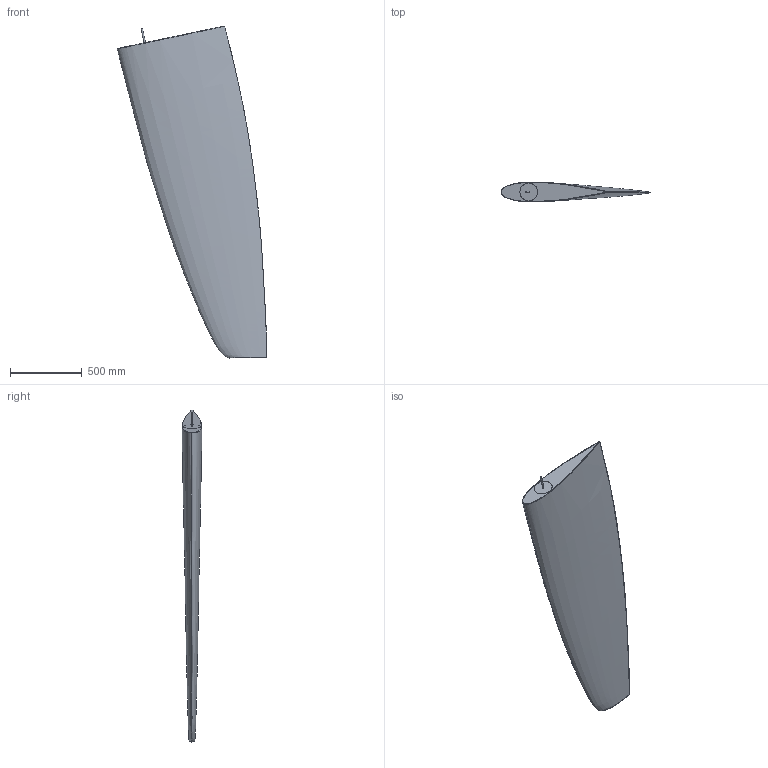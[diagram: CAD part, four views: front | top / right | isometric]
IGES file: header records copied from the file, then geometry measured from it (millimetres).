
Start section: SolidWorks IGES file using analytic representation for surfaces
Global section: file name: J:\SolidWorks\Rudder\RUD00\Rudderblade RUD55 for 50 to 60ft.IGS; native system: SolidWorks 2010; preprocessor: SolidWorks 2010; author: Klaus Jeppsen; date: 100928.115506; units: millimetre
Bounding box: 1044.97 x 139.48 x 2320.46 mm (x, y, z)
Surface area: 3071433.4 mm2 (no closed solid volume)
Topology: 0 solids, 0 shells, 14 faces, 535 edges, 535 vertices
Faces by surface type: bspline 12, revolution 2
